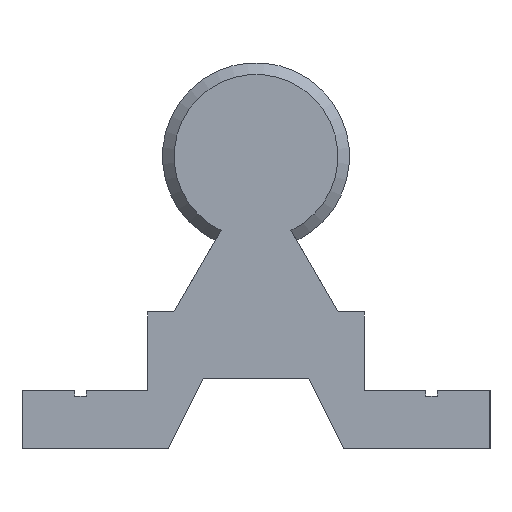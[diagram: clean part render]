
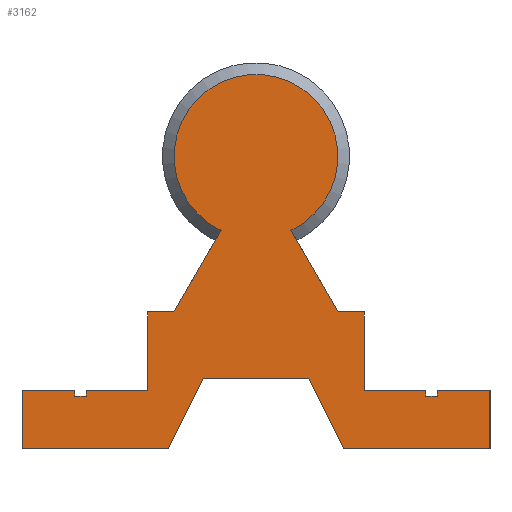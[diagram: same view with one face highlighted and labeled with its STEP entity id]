
A CAD part, left-side view. The second image highlights one B-rep face of the part: STEP entity #3162.
In plain terms, the highlighted planar face has unit normal (-1, 0, 0).
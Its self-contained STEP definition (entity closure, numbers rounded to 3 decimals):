
#68=LINE('',#4669,#340);
#69=LINE('',#4671,#341);
#70=LINE('',#4673,#342);
#71=LINE('',#4675,#343);
#72=LINE('',#4677,#344);
#73=LINE('',#4679,#345);
#74=LINE('',#4681,#346);
#75=LINE('',#4683,#347);
#76=LINE('',#4685,#348);
#77=LINE('',#4687,#349);
#78=LINE('',#4689,#350);
#79=LINE('',#4691,#351);
#80=LINE('',#4693,#352);
#81=LINE('',#4695,#353);
#82=LINE('',#4697,#354);
#83=LINE('',#4699,#355);
#84=LINE('',#4701,#356);
#85=LINE('',#4703,#357);
#86=LINE('',#4705,#358);
#87=LINE('',#4707,#359);
#88=LINE('',#4709,#360);
#89=LINE('',#4711,#361);
#90=LINE('',#4712,#362);
#340=VECTOR('',#3689,10.);
#341=VECTOR('',#3690,10.);
#342=VECTOR('',#3691,10.);
#343=VECTOR('',#3692,10.);
#344=VECTOR('',#3693,10.);
#345=VECTOR('',#3694,10.);
#346=VECTOR('',#3695,10.);
#347=VECTOR('',#3696,10.);
#348=VECTOR('',#3697,10.);
#349=VECTOR('',#3698,10.);
#350=VECTOR('',#3699,10.);
#351=VECTOR('',#3700,10.);
#352=VECTOR('',#3701,10.);
#353=VECTOR('',#3702,10.);
#354=VECTOR('',#3703,10.);
#355=VECTOR('',#3704,10.);
#356=VECTOR('',#3705,10.);
#357=VECTOR('',#3706,10.);
#358=VECTOR('',#3707,10.);
#359=VECTOR('',#3708,10.);
#360=VECTOR('',#3709,10.);
#361=VECTOR('',#3710,10.);
#362=VECTOR('',#3711,10.);
#612=PLANE('',#3332);
#716=FACE_OUTER_BOUND('',#864,.T.);
#864=EDGE_LOOP('',(#2127,#2128,#2129,#2130,#2131,#2132,#2133,#2134,#2135,
#2136,#2137,#2138,#2139,#2140,#2141,#2142,#2143,#2144,#2145,#2146,#2147,
#2148,#2149,#2150));
#1037=CIRCLE('',#3330,7.);
#1276=VERTEX_POINT('',#4656);
#1277=VERTEX_POINT('',#4660);
#1279=VERTEX_POINT('',#4668);
#1280=VERTEX_POINT('',#4670);
#1281=VERTEX_POINT('',#4672);
#1282=VERTEX_POINT('',#4674);
#1283=VERTEX_POINT('',#4676);
#1284=VERTEX_POINT('',#4678);
#1285=VERTEX_POINT('',#4680);
#1286=VERTEX_POINT('',#4682);
#1287=VERTEX_POINT('',#4684);
#1288=VERTEX_POINT('',#4686);
#1289=VERTEX_POINT('',#4688);
#1290=VERTEX_POINT('',#4690);
#1291=VERTEX_POINT('',#4692);
#1292=VERTEX_POINT('',#4694);
#1293=VERTEX_POINT('',#4696);
#1294=VERTEX_POINT('',#4698);
#1295=VERTEX_POINT('',#4700);
#1296=VERTEX_POINT('',#4702);
#1297=VERTEX_POINT('',#4704);
#1298=VERTEX_POINT('',#4706);
#1299=VERTEX_POINT('',#4708);
#1300=VERTEX_POINT('',#4710);
#1614=EDGE_CURVE('',#1276,#1277,#1037,.T.);
#1617=EDGE_CURVE('',#1277,#1279,#68,.T.);
#1618=EDGE_CURVE('',#1280,#1276,#69,.T.);
#1619=EDGE_CURVE('',#1281,#1280,#70,.T.);
#1620=EDGE_CURVE('',#1282,#1281,#71,.T.);
#1621=EDGE_CURVE('',#1283,#1282,#72,.T.);
#1622=EDGE_CURVE('',#1284,#1283,#73,.T.);
#1623=EDGE_CURVE('',#1285,#1284,#74,.T.);
#1624=EDGE_CURVE('',#1286,#1285,#75,.T.);
#1625=EDGE_CURVE('',#1287,#1286,#76,.T.);
#1626=EDGE_CURVE('',#1288,#1287,#77,.T.);
#1627=EDGE_CURVE('',#1289,#1288,#78,.T.);
#1628=EDGE_CURVE('',#1290,#1289,#79,.T.);
#1629=EDGE_CURVE('',#1291,#1290,#80,.T.);
#1630=EDGE_CURVE('',#1292,#1291,#81,.T.);
#1631=EDGE_CURVE('',#1293,#1292,#82,.T.);
#1632=EDGE_CURVE('',#1294,#1293,#83,.T.);
#1633=EDGE_CURVE('',#1295,#1294,#84,.T.);
#1634=EDGE_CURVE('',#1296,#1295,#85,.T.);
#1635=EDGE_CURVE('',#1297,#1296,#86,.T.);
#1636=EDGE_CURVE('',#1298,#1297,#87,.T.);
#1637=EDGE_CURVE('',#1299,#1298,#88,.T.);
#1638=EDGE_CURVE('',#1300,#1299,#89,.T.);
#1639=EDGE_CURVE('',#1279,#1300,#90,.T.);
#2127=ORIENTED_EDGE('',*,*,#1617,.F.);
#2128=ORIENTED_EDGE('',*,*,#1614,.F.);
#2129=ORIENTED_EDGE('',*,*,#1618,.F.);
#2130=ORIENTED_EDGE('',*,*,#1619,.F.);
#2131=ORIENTED_EDGE('',*,*,#1620,.F.);
#2132=ORIENTED_EDGE('',*,*,#1621,.F.);
#2133=ORIENTED_EDGE('',*,*,#1622,.F.);
#2134=ORIENTED_EDGE('',*,*,#1623,.F.);
#2135=ORIENTED_EDGE('',*,*,#1624,.F.);
#2136=ORIENTED_EDGE('',*,*,#1625,.F.);
#2137=ORIENTED_EDGE('',*,*,#1626,.F.);
#2138=ORIENTED_EDGE('',*,*,#1627,.F.);
#2139=ORIENTED_EDGE('',*,*,#1628,.F.);
#2140=ORIENTED_EDGE('',*,*,#1629,.F.);
#2141=ORIENTED_EDGE('',*,*,#1630,.F.);
#2142=ORIENTED_EDGE('',*,*,#1631,.F.);
#2143=ORIENTED_EDGE('',*,*,#1632,.F.);
#2144=ORIENTED_EDGE('',*,*,#1633,.F.);
#2145=ORIENTED_EDGE('',*,*,#1634,.F.);
#2146=ORIENTED_EDGE('',*,*,#1635,.F.);
#2147=ORIENTED_EDGE('',*,*,#1636,.F.);
#2148=ORIENTED_EDGE('',*,*,#1637,.F.);
#2149=ORIENTED_EDGE('',*,*,#1638,.F.);
#2150=ORIENTED_EDGE('',*,*,#1639,.F.);
#3162=ADVANCED_FACE('',(#716),#612,.F.);
#3330=AXIS2_PLACEMENT_3D('',#4661,#3683,#3684);
#3332=AXIS2_PLACEMENT_3D('',#4667,#3687,#3688);
#3683=DIRECTION('center_axis',(1.,0.,0.));
#3684=DIRECTION('ref_axis',(0.,1.,0.));
#3687=DIRECTION('center_axis',(1.,0.,0.));
#3688=DIRECTION('ref_axis',(0.,0.,-1.));
#3689=DIRECTION('',(0.,-0.5,-0.866));
#3690=DIRECTION('',(0.,-0.5,0.866));
#3691=DIRECTION('',(0.,-1.,0.));
#3692=DIRECTION('',(0.,0.,1.));
#3693=DIRECTION('',(0.,-1.,0.));
#3694=DIRECTION('',(0.,0.,1.));
#3695=DIRECTION('',(0.,-1.,0.));
#3696=DIRECTION('',(0.,0.,-1.));
#3697=DIRECTION('',(0.,-1.,0.));
#3698=DIRECTION('',(0.,0.,1.));
#3699=DIRECTION('',(0.,1.,0.));
#3700=DIRECTION('',(0.,0.447,-0.894));
#3701=DIRECTION('',(0.,1.,0.));
#3702=DIRECTION('',(0.,0.447,0.894));
#3703=DIRECTION('',(0.,1.,0.));
#3704=DIRECTION('',(0.,0.,-1.));
#3705=DIRECTION('',(0.,-1.,0.));
#3706=DIRECTION('',(0.,0.,1.));
#3707=DIRECTION('',(0.,-1.,0.));
#3708=DIRECTION('',(0.,0.,-1.));
#3709=DIRECTION('',(0.,-1.,0.));
#3710=DIRECTION('',(0.,0.,-1.));
#3711=DIRECTION('',(0.,-1.,0.));
#4656=CARTESIAN_POINT('',(0.,2.986,18.669));
#4660=CARTESIAN_POINT('',(0.,-2.986,18.669));
#4661=CARTESIAN_POINT('Origin',(0.,0.,25.));
#4667=CARTESIAN_POINT('Origin',(0.,0.,25.));
#4668=CARTESIAN_POINT('',(0.,-7.009,11.7));
#4669=CARTESIAN_POINT('',(0.,-1.492,21.255));
#4670=CARTESIAN_POINT('',(0.,7.009,11.7));
#4671=CARTESIAN_POINT('',(0.,3.253,18.205));
#4672=CARTESIAN_POINT('',(0.,9.25,11.7));
#4673=CARTESIAN_POINT('',(0.,9.25,11.7));
#4674=CARTESIAN_POINT('',(0.,9.25,5.));
#4675=CARTESIAN_POINT('',(0.,9.25,5.));
#4676=CARTESIAN_POINT('',(0.,14.5,5.));
#4677=CARTESIAN_POINT('',(0.,14.5,5.));
#4678=CARTESIAN_POINT('',(0.,14.5,4.5));
#4679=CARTESIAN_POINT('',(0.,14.5,4.5));
#4680=CARTESIAN_POINT('',(0.,15.5,4.5));
#4681=CARTESIAN_POINT('',(0.,15.5,4.5));
#4682=CARTESIAN_POINT('',(0.,15.5,5.));
#4683=CARTESIAN_POINT('',(0.,15.5,5.));
#4684=CARTESIAN_POINT('',(0.,20.,5.));
#4685=CARTESIAN_POINT('',(0.,20.,5.));
#4686=CARTESIAN_POINT('',(0.,20.,0.));
#4687=CARTESIAN_POINT('',(0.,20.,0.));
#4688=CARTESIAN_POINT('',(0.,7.5,0.));
#4689=CARTESIAN_POINT('',(0.,7.5,0.));
#4690=CARTESIAN_POINT('',(0.,4.5,6.));
#4691=CARTESIAN_POINT('',(0.,4.5,6.));
#4692=CARTESIAN_POINT('',(0.,-4.5,6.));
#4693=CARTESIAN_POINT('',(0.,-4.5,6.));
#4694=CARTESIAN_POINT('',(0.,-7.5,0.));
#4695=CARTESIAN_POINT('',(0.,-7.5,0.));
#4696=CARTESIAN_POINT('',(0.,-20.,0.));
#4697=CARTESIAN_POINT('',(0.,-20.,0.));
#4698=CARTESIAN_POINT('',(0.,-20.,5.));
#4699=CARTESIAN_POINT('',(0.,-20.,5.));
#4700=CARTESIAN_POINT('',(0.,-15.5,5.));
#4701=CARTESIAN_POINT('',(0.,-15.5,5.));
#4702=CARTESIAN_POINT('',(0.,-15.5,4.5));
#4703=CARTESIAN_POINT('',(0.,-15.5,4.5));
#4704=CARTESIAN_POINT('',(0.,-14.5,4.5));
#4705=CARTESIAN_POINT('',(0.,-14.5,4.5));
#4706=CARTESIAN_POINT('',(0.,-14.5,5.));
#4707=CARTESIAN_POINT('',(0.,-14.5,5.));
#4708=CARTESIAN_POINT('',(0.,-9.25,5.));
#4709=CARTESIAN_POINT('',(0.,-9.25,5.));
#4710=CARTESIAN_POINT('',(0.,-9.25,11.7));
#4711=CARTESIAN_POINT('',(0.,-9.25,11.7));
#4712=CARTESIAN_POINT('',(0.,-7.009,11.7));
